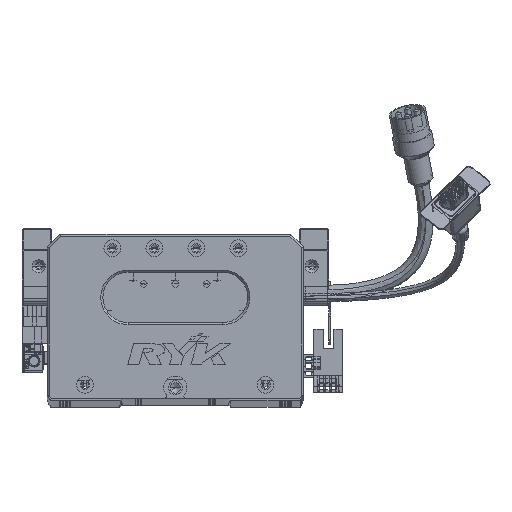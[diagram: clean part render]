
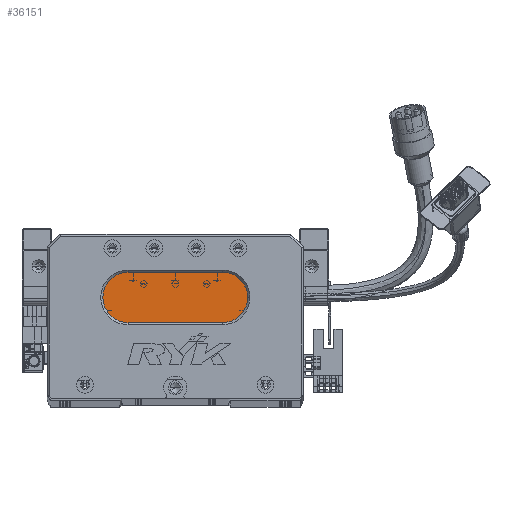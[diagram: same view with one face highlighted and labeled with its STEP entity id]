
A CAD part, top view. The second image highlights one B-rep face of the part: STEP entity #36151.
In plain terms, the highlighted planar face has unit normal (0, 0, 1) as drawn and (0, 0, -1) by its records, which use the part's own axes.
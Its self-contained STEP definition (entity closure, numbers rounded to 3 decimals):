
#1137 = CARTESIAN_POINT ( 'NONE',  ( 83.5, 60., 13. ) ) ;
#1611 = ORIENTED_EDGE ( 'NONE', *, *, #66980, .T. ) ;
#1619 = VERTEX_POINT ( 'NONE', #16629 ) ;
#3359 = VECTOR ( 'NONE', #86292, 1000. ) ;
#4281 = DIRECTION ( 'NONE',  ( 0., 0., -1. ) ) ;
#4799 = CARTESIAN_POINT ( 'NONE',  ( 38.5, 36., 13. ) ) ;
#7860 = ORIENTED_EDGE ( 'NONE', *, *, #49068, .T. ) ;
#12559 = AXIS2_PLACEMENT_3D ( 'NONE', #50213, #57957, #34721 ) ;
#12840 = VERTEX_POINT ( 'NONE', #1137 ) ;
#14899 = DIRECTION ( 'NONE',  ( -1., 0., 0. ) ) ;
#16629 = CARTESIAN_POINT ( 'NONE',  ( 38.5, 60., 13. ) ) ;
#17557 = VECTOR ( 'NONE', #30142, 1000. ) ;
#18632 = VERTEX_POINT ( 'NONE', #51300 ) ;
#19407 = DIRECTION ( 'NONE',  ( -1., 0., 0. ) ) ;
#19751 = CARTESIAN_POINT ( 'NONE',  ( 38.5, 48., 13. ) ) ;
#23100 = EDGE_CURVE ( 'NONE', #1619, #12840, #71283, .T. ) ;
#23331 = DIRECTION ( 'NONE',  ( 0., 0., -1. ) ) ;
#23666 = DIRECTION ( 'NONE',  ( -1., 0., 0. ) ) ;
#30142 = DIRECTION ( 'NONE',  ( -1., 0., 0. ) ) ;
#31188 = CARTESIAN_POINT ( 'NONE',  ( 83.5, 36., 13. ) ) ;
#32675 = ORIENTED_EDGE ( 'NONE', *, *, #77059, .T. ) ;
#34721 = DIRECTION ( 'NONE',  ( -1., 0., 0. ) ) ;
#36151 = ADVANCED_FACE ( 'NONE', ( #45718 ), #102451, .T. ) ;
#39537 = CARTESIAN_POINT ( 'NONE',  ( 38.5, 48., 13. ) ) ;
#41767 = EDGE_CURVE ( 'NONE', #18632, #55990, #59136, .T. ) ;
#42289 = CIRCLE ( 'NONE', #12559, 12. ) ;
#45718 = FACE_OUTER_BOUND ( 'NONE', #94904, .T. ) ;
#49068 = EDGE_CURVE ( 'NONE', #12840, #18632, #42289, .T. ) ;
#49171 = ORIENTED_EDGE ( 'NONE', *, *, #41767, .T. ) ;
#49703 = CIRCLE ( 'NONE', #63104, 12. ) ;
#50213 = CARTESIAN_POINT ( 'NONE',  ( 83.5, 48., 13. ) ) ;
#50963 = CARTESIAN_POINT ( 'NONE',  ( 26.5, 48., 13. ) ) ;
#51300 = CARTESIAN_POINT ( 'NONE',  ( 83.5, 36., 13. ) ) ;
#54307 = CARTESIAN_POINT ( 'NONE',  ( 83.5, 48., 13. ) ) ;
#54343 = AXIS2_PLACEMENT_3D ( 'NONE', #54307, #64487, #14899 ) ;
#55990 = VERTEX_POINT ( 'NONE', #4799 ) ;
#57957 = DIRECTION ( 'NONE',  ( 0., 0., -1. ) ) ;
#59136 = LINE ( 'NONE', #31188, #17557 ) ;
#61897 = CIRCLE ( 'NONE', #63589, 12. ) ;
#63104 = AXIS2_PLACEMENT_3D ( 'NONE', #19751, #4281, #19407 ) ;
#63589 = AXIS2_PLACEMENT_3D ( 'NONE', #39537, #23331, #23666 ) ;
#64487 = DIRECTION ( 'NONE',  ( 0., 0., -1. ) ) ;
#66980 = EDGE_CURVE ( 'NONE', #55990, #85615, #61897, .T. ) ;
#71283 = LINE ( 'NONE', #102825, #3359 ) ;
#77059 = EDGE_CURVE ( 'NONE', #85615, #1619, #49703, .T. ) ;
#85615 = VERTEX_POINT ( 'NONE', #50963 ) ;
#86292 = DIRECTION ( 'NONE',  ( 1., 0., 0. ) ) ;
#92469 = ORIENTED_EDGE ( 'NONE', *, *, #23100, .T. ) ;
#94904 = EDGE_LOOP ( 'NONE', ( #7860, #49171, #1611, #32675, #92469 ) ) ;
#102451 = PLANE ( 'NONE',  #54343 ) ;
#102825 = CARTESIAN_POINT ( 'NONE',  ( 83.5, 60., 13. ) ) ;
